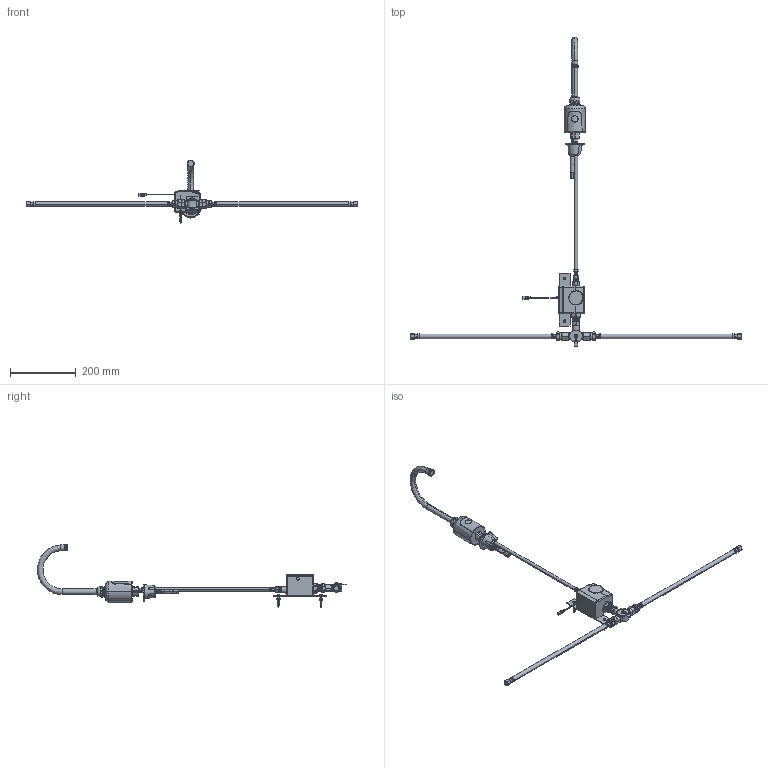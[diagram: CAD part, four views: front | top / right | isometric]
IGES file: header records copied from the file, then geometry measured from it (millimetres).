
Start section:  PTC IGES file: 116-965-ab-1_sw0001.igs
Global section: file name: 116-965-ab-1_sw0001.igs; native system: Pro/ENGINEER by Parametric Technology Corporation; preprocessor: 2011330; author: jrodriguez; organization: Unknown; date: 20120229.120735; units: inch
Bounding box: 1007.49 x 941.29 x 193.58 mm (x, y, z)
Surface area: 245453 mm2 (no closed solid volume)
Topology: 0 solids, 0 shells, 1399 faces, 12225 edges, 16836 vertices
Faces by surface type: revolution 880, bspline 519
